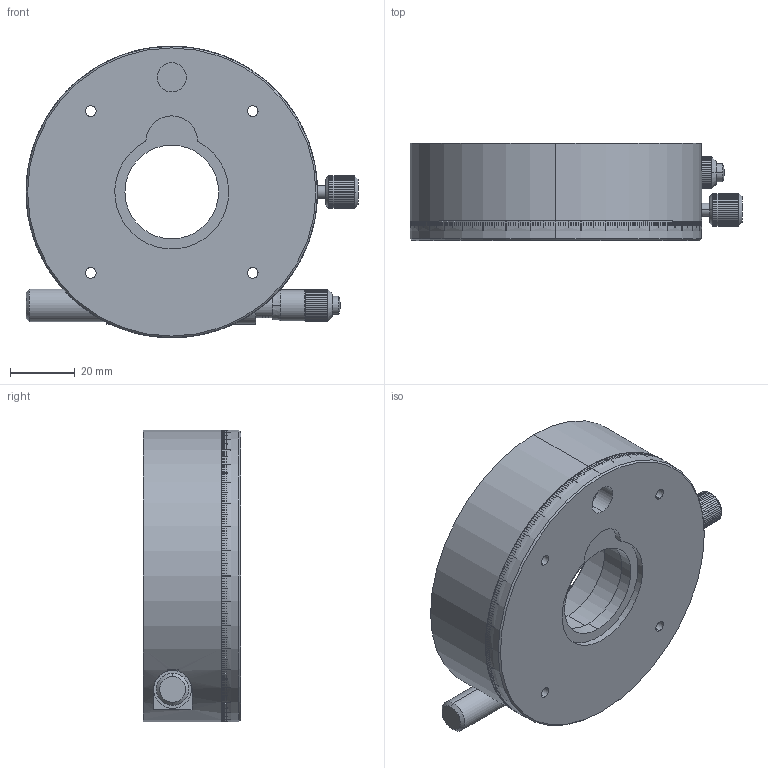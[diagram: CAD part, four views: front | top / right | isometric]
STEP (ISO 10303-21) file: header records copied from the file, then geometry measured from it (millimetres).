
FILE_DESCRIPTION (( 'STEP AP203' ), '1' );
FILE_NAME ('R1-917-T1.STEP', '2013-02-21T23:33:12', ( '' ), ( '' ), 'SwSTEP 2.0', 'SolidWorks 2012', '' );
FILE_SCHEMA (( 'CONFIG_CONTROL_DESIGN' ));
Length unit declared in the file: millimetre
Products named in the file (3): R1-917-T1; 2_2; 1_1
Assembly tree (2 placements, depth 2):
  R1-917-T1
    1_1
    2_2
Bounding box: 102.5 x 30 x 90 mm (x, y, z)
Volume: 145767.2 mm3; surface area: 40317 mm2
Topology: 2 solids, 2 shells, 2044 faces, 6006 edges, 4002 vertices
Faces by surface type: plane 1481, cylinder 546, cone 16, bspline 1
Entity records: 68455 total; most frequent: CARTESIAN_POINT 12215, ORIENTED_EDGE 12012, DIRECTION 11581, EDGE_CURVE 6006, VECTOR 4509, LINE 4509, VERTEX_POINT 4002, AXIS2_PLACEMENT_3D 3536
